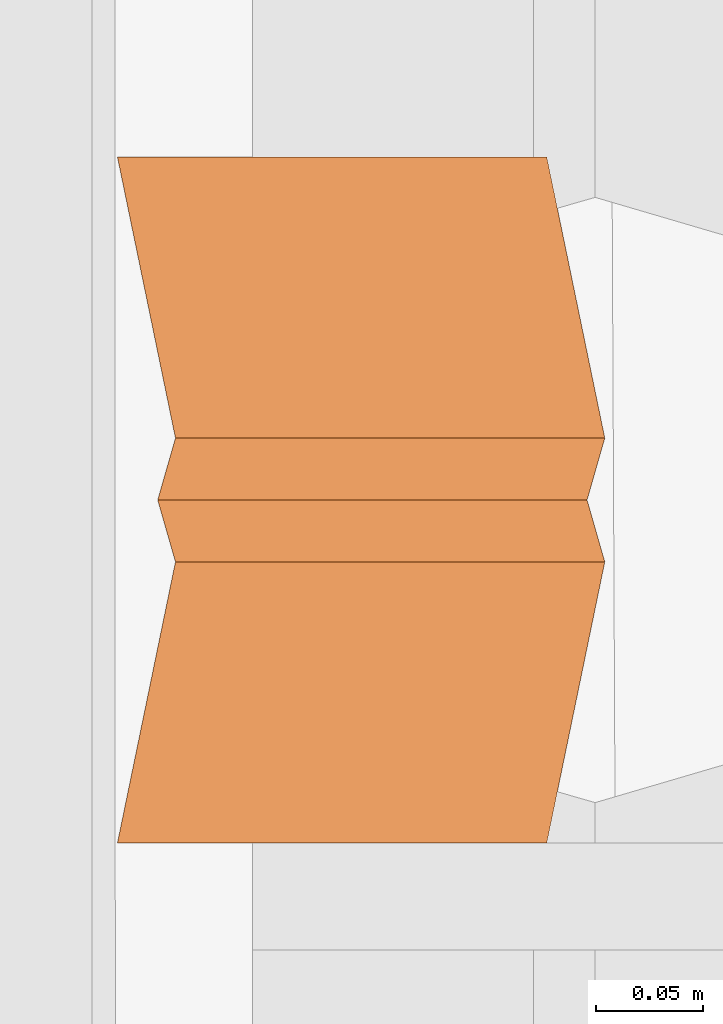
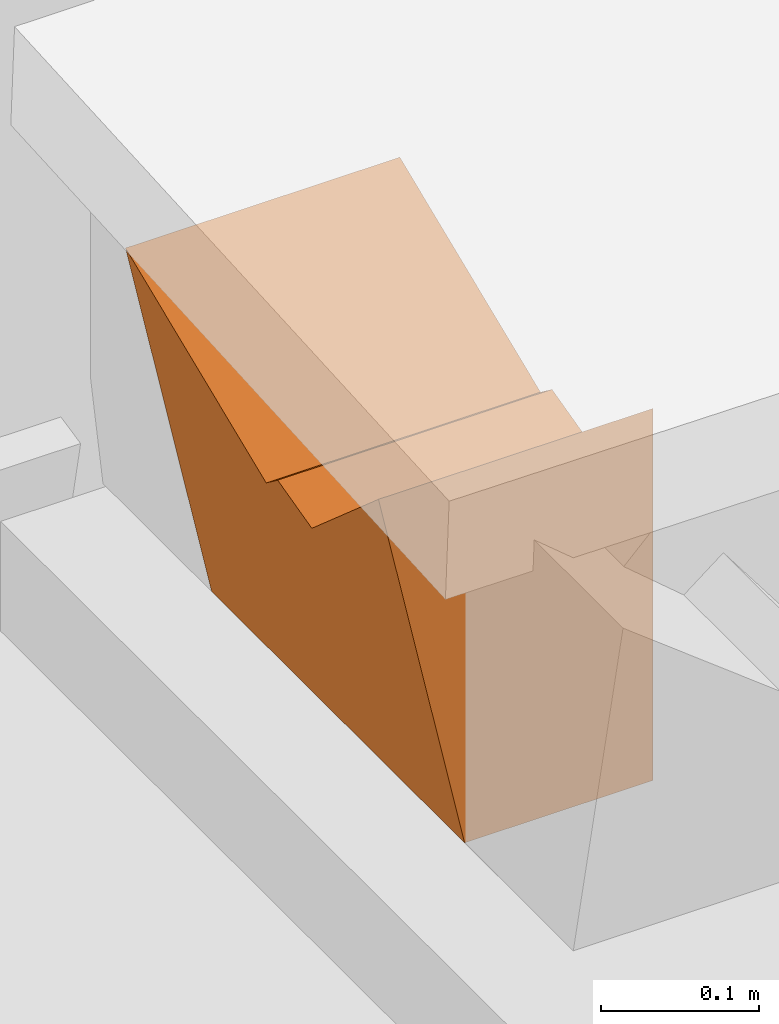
# One storey, part 152 of 158: 1 proxy.
"""IFC2X3 building model written with IfcOpenShell, lengths in metres."""

from ifc_helpers import new_model, entity, si_unit, converted_unit, derived_unit, money_unit, direction, origin_with_axes, place, context, subcontext, project, spatial, faceted_brep, material, type_object, element, save


model = new_model("IFC2X3")

# Units and contexts
model_context = context("Model", 3, precision=1e-05, world=origin_with_axes(), true_north=direction((0.0, 1.0)))
body_context = subcontext(model_context, "Body", "Model", "MODEL_VIEW")
ifc_project = project(units=[si_unit("LENGTHUNIT", "METRE"), si_unit("AREAUNIT", "SQUARE_METRE"), si_unit("VOLUMEUNIT", "CUBIC_METRE"), converted_unit("PLANEANGLEUNIT", "DEGREE", entity("IfcPlaneAngleMeasure", 0.0174532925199), si_unit("PLANEANGLEUNIT", "RADIAN"), dimensions=[0, 0, 0, 0, 0, 0, 0]), money_unit("EUR"), converted_unit("TIMEUNIT", "Year", entity("IfcTimeMeasure", 31556926.0), si_unit("TIMEUNIT", "SECOND"), dimensions=[0, 0, 1, 0, 0, 0, 0]), si_unit("MASSUNIT", "GRAM", prefix="KILO"), si_unit("THERMODYNAMICTEMPERATUREUNIT", "DEGREE_CELSIUS"), si_unit("LUMINOUSINTENSITYUNIT", "LUMEN"), si_unit("ENERGYUNIT", "JOULE", prefix="MEGA"), derived_unit("THERMALCONDUCTANCEUNIT", [(si_unit("POWERUNIT", "WATT"), 1), (si_unit("LENGTHUNIT", "METRE"), -1), (si_unit("THERMODYNAMICTEMPERATUREUNIT", "KELVIN"), -1)]), derived_unit("SPECIFICHEATCAPACITYUNIT", [(si_unit("ENERGYUNIT", "JOULE"), 1), (si_unit("MASSUNIT", "GRAM", prefix="KILO"), -1), (si_unit("THERMODYNAMICTEMPERATUREUNIT", "KELVIN"), -1)]), derived_unit("MASSDENSITYUNIT", [(si_unit("MASSUNIT", "GRAM", prefix="KILO"), 1), (si_unit("VOLUMEUNIT", "CUBIC_METRE"), -1)])], contexts=[model_context])

# Site, building, storey
site_placement = place(None, origin_with_axes())
site = spatial("IfcSite", under=ifc_project, at=site_placement, Name="Gelände", CompositionType="ELEMENT")
building_placement = place(site_placement, origin_with_axes())
building = spatial("IfcBuilding", under=site, at=building_placement, Name="Gebäude", CompositionType="ELEMENT")
storey_placement = place(building_placement, origin_with_axes())
storey = spatial("IfcBuildingStorey", under=building, at=storey_placement, Name="ERDGESCHOSS", CompositionType="ELEMENT", Elevation=0.0)

# Proxy
ifc_material = material(Name="01_ALLGEMEIN - BAUTEIL")
building_element_proxy_type = type_object("IfcBuildingElementProxyType", Name="01_ALLGEMEIN - BAUTEIL", PredefinedType="NOTDEFINED")
proxy_placement = place(storey_placement, origin_with_axes())
element("IfcBuildingElementProxy", 1, at=proxy_placement, inside=storey, type_object=building_element_proxy_type, material=ifc_material, Name="Morph-302", context=body_context, shape_type="Brep", body=[
    faceted_brep([(-9.3455489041, 9.52253947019, 1.1127475), (-9.28272341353, 9.52253947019, 0.8259985), (-9.14554890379, 9.52253947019, 0.8259985), (-9.14554890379, 9.52253947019, 1.1127475), (-9.3185298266, 9.65342532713, 1.0015705), (-9.28272341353, 9.65342532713, 0.8259985), (-9.28272341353, 9.68225612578, 0.8259985), (-9.28272341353, 9.71108692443, 0.8259985), (-9.28272341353, 9.84197278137, 0.8259985), (-9.14554890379, 9.84197278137, 0.8259985), (-9.11852982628, 9.71108692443, 0.8259985), (-9.12680633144, 9.68225612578, 0.8259985), (-9.11852982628, 9.65342532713, 0.8259985), (-9.11852982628, 9.65342532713, 1.0015705), (-9.3185298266, 9.71108692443, 1.0015705), (-9.3455489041, 9.84197278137, 1.1127475), (-9.14554890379, 9.84197278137, 1.1127475), (-9.11852982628, 9.71108692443, 1.0015705), (-9.12680633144, 9.68225612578, 1.0240685), (-9.32680633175, 9.68225612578, 1.0240685)], [[[0, 1, 2, 3]], [[1, 0, 4]], [[2, 1, 5, 6, 7, 8, 9, 10, 11, 12]], [[3, 2, 12, 13]], [[4, 0, 3]], [[4, 5, 1]], [[5, 4, 6]], [[14, 7, 6]], [[7, 14, 8]], [[8, 15, 16, 9]], [[9, 16, 17, 10]], [[18, 11, 10, 17]], [[13, 12, 11, 18]], [[13, 4, 3]], [[4, 19, 6]], [[14, 6, 19]], [[14, 15, 8]], [[15, 14, 16]], [[14, 17, 16]], [[14, 18, 17]], [[4, 13, 18]], [[19, 4, 18]], [[14, 19, 18]]]),
])

save(model, "model.ifc")
